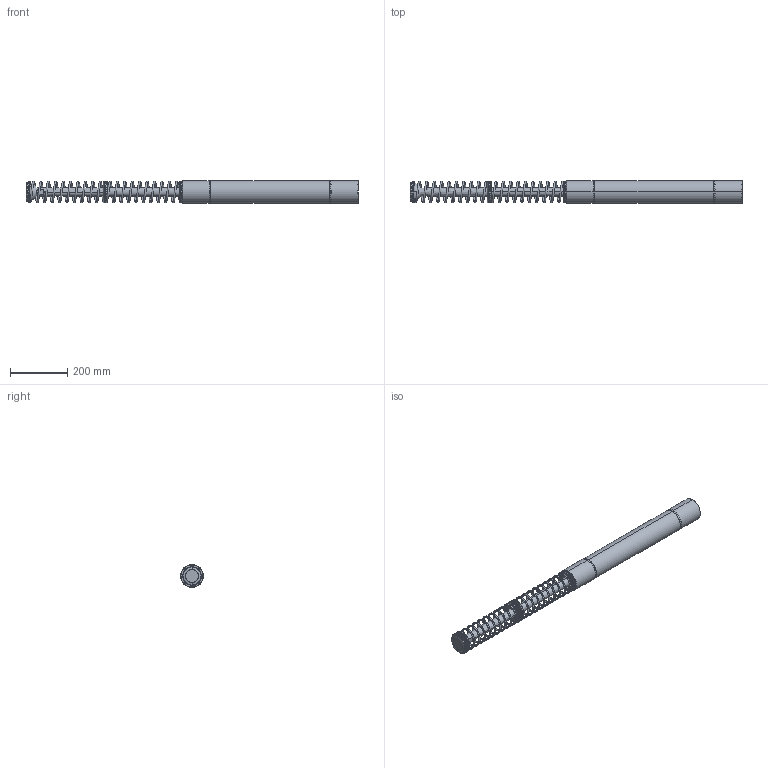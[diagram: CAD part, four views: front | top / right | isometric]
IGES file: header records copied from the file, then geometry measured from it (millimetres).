
Start section: SolidWorks IGES file using analytic representation for surfaces
Global section: file name: Z:\7-3D図面\02.3Dデータ(提出用)\IGS\L\S-A\FK-80400-C.IGS; native system: SolidWorks 2016; preprocessor: SolidWorks 2016; author: flgijutsu02; date: 160405.173650; units: millimetre
Bounding box: 1162.7 x 80 x 80 mm (x, y, z)
Surface area: 321449.3 mm2 (no closed solid volume)
Topology: 0 solids, 0 shells, 93 faces, 2292 edges, 2292 vertices
Faces by surface type: revolution 48, bspline 45
